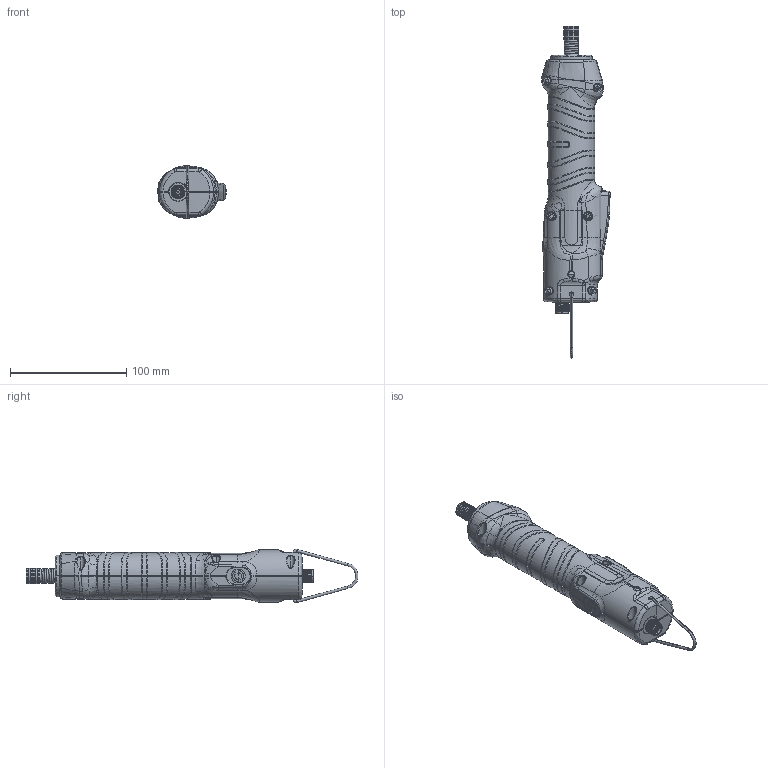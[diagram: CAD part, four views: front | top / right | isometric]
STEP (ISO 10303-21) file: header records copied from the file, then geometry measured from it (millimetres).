
FILE_DESCRIPTION (( 'STEP AP214' ), '1' );
FILE_NAME ('PLUTO6D-TA 134206-TA.STEP', '2021-07-26T09:07:37', ( '' ), ( '' ), 'SwSTEP 2.0', 'SolidWorks 2020', '' );
FILE_SCHEMA (( 'AUTOMOTIVE_DESIGN' ));
Length unit declared in the file: millimetre
Products named in the file (1): PLUTO6D-TA 134206-TA
Bounding box: 58.96 x 286.07 x 45.94 mm (x, y, z)
Surface area: 43079 mm2 (no closed solid volume)
Topology: 0 solids, 38 shells, 1011 faces, 3213 edges, 2148 vertices
Faces by surface type: bspline 451, cylinder 248, plane 161, cone 96, torus 52, sphere 3
Entity records: 86723 total; most frequent: CARTESIAN_POINT 52526, ORIENTED_EDGE 5294, DIRECTION 3460, EDGE_CURVE 3180, VERTEX_POINT 2142, B_SPLINE_CURVE_WITH_KNOTS 1427, AXIS2_PLACEMENT_3D 1304, EDGE_LOOP 1039
